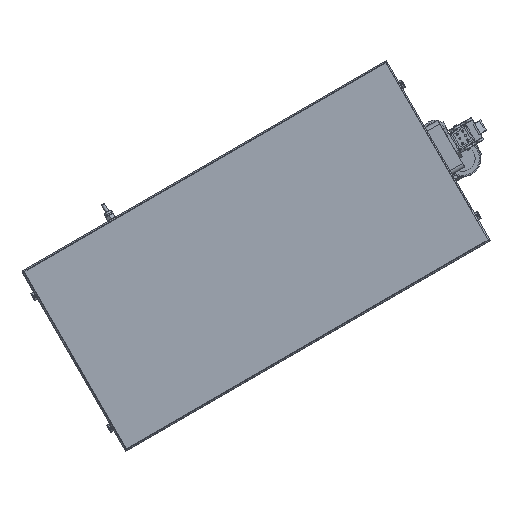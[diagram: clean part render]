
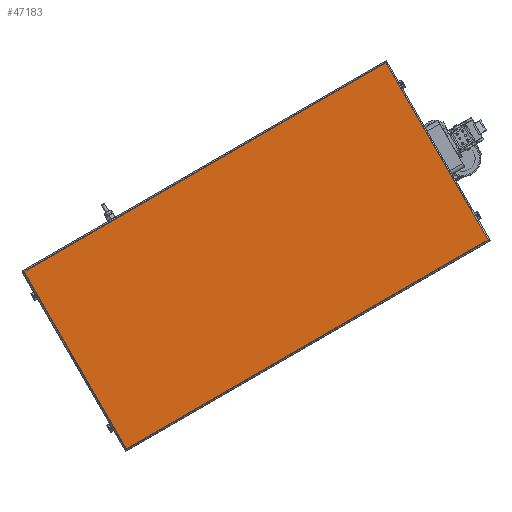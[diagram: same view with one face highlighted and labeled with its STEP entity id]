
A CAD part, top view. The second image highlights one B-rep face of the part: STEP entity #47183.
In plain terms, the highlighted planar face has unit normal (0, 0, 1).
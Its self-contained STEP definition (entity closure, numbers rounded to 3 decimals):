
#2398 = CARTESIAN_POINT ( 'NONE',  ( -43.381, -167.363, 959.5 ) ) ;
#3167 = VECTOR ( 'NONE', #49583, 1000. ) ;
#5194 = FACE_OUTER_BOUND ( 'NONE', #41100, .T. ) ;
#9871 = ORIENTED_EDGE ( 'NONE', *, *, #51005, .T. ) ;
#11740 = PLANE ( 'NONE',  #66696 ) ;
#17879 = LINE ( 'NONE', #46901, #28505 ) ;
#22959 = EDGE_CURVE ( 'NONE', #31379, #32721, #51110, .T. ) ;
#25259 = DIRECTION ( 'NONE',  ( -0.5, 0.866, 0. ) ) ;
#26831 = LINE ( 'NONE', #74653, #47800 ) ;
#26865 = ORIENTED_EDGE ( 'NONE', *, *, #22959, .T. ) ;
#28505 = VECTOR ( 'NONE', #40381, 1000. ) ;
#30640 = CARTESIAN_POINT ( 'NONE',  ( 263.668, 292.814, 959.5 ) ) ;
#31379 = VERTEX_POINT ( 'NONE', #50074 ) ;
#31408 = CARTESIAN_POINT ( 'NONE',  ( -165.631, 44.381, 959.5 ) ) ;
#32721 = VERTEX_POINT ( 'NONE', #31408 ) ;
#37575 = CARTESIAN_POINT ( 'NONE',  ( 384.735, 82.119, 959.5 ) ) ;
#40063 = EDGE_CURVE ( 'NONE', #32721, #70146, #56078, .T. ) ;
#40381 = DIRECTION ( 'NONE',  ( 0.866, 0.5, 0. ) ) ;
#41100 = EDGE_LOOP ( 'NONE', ( #44991, #9871, #63281, #26865 ) ) ;
#44460 = DIRECTION ( 'NONE',  ( 0.5, -0.866, 0. ) ) ;
#44991 = ORIENTED_EDGE ( 'NONE', *, *, #40063, .T. ) ;
#46901 = CARTESIAN_POINT ( 'NONE',  ( 386.467, 83.119, 959.5 ) ) ;
#47183 = ADVANCED_FACE ( 'NONE', ( #5194 ), #11740, .T. ) ;
#47800 = VECTOR ( 'NONE', #50360, 1000. ) ;
#49583 = DIRECTION ( 'NONE',  ( -0.866, -0.5, 0. ) ) ;
#50074 = CARTESIAN_POINT ( 'NONE',  ( 263.485, 292.131, 959.5 ) ) ;
#50360 = DIRECTION ( 'NONE',  ( -0.5, 0.866, 0. ) ) ;
#51005 = EDGE_CURVE ( 'NONE', #70146, #68029, #17879, .T. ) ;
#51110 = LINE ( 'NONE', #63118, #3167 ) ;
#55067 = CARTESIAN_POINT ( 'NONE',  ( -44.381, -165.631, 959.5 ) ) ;
#56078 = LINE ( 'NONE', #2398, #67955 ) ;
#63118 = CARTESIAN_POINT ( 'NONE',  ( -167.363, 43.381, 959.5 ) ) ;
#63281 = ORIENTED_EDGE ( 'NONE', *, *, #73827, .T. ) ;
#65823 = DIRECTION ( 'NONE',  ( 0., 0., 1. ) ) ;
#66696 = AXIS2_PLACEMENT_3D ( 'NONE', #30640, #65823, #25259 ) ;
#67955 = VECTOR ( 'NONE', #44460, 1000. ) ;
#68029 = VERTEX_POINT ( 'NONE', #37575 ) ;
#70146 = VERTEX_POINT ( 'NONE', #55067 ) ;
#73827 = EDGE_CURVE ( 'NONE', #68029, #31379, #26831, .T. ) ;
#74653 = CARTESIAN_POINT ( 'NONE',  ( 262.485, 293.863, 959.5 ) ) ;
